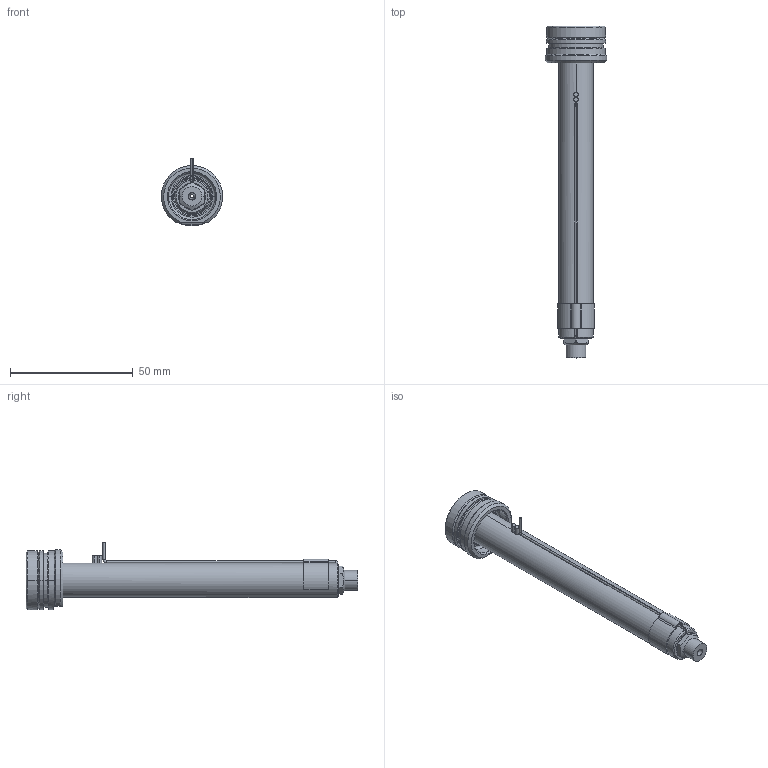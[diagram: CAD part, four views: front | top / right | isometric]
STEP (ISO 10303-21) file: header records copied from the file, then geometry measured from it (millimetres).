
FILE_DESCRIPTION((''),'2;1');
FILE_NAME('EO04_SG_SG_120_SW','2024-02-19T12:12:15',('sundharh'),(''),'CREO PARAMETRIC BY PTC INC, 2023154','CREO PARAMETRIC BY PTC INC, 2023154','');
FILE_SCHEMA(('CONFIG_CONTROL_DESIGN'));
Length unit declared in the file: millimetre
Products named in the file (1): EO04_SG_SG_120_SW
Bounding box: 24.99 x 135 x 27.5 mm (x, y, z)
Volume: 22190.5 mm3; surface area: 10729 mm2
Topology: 2 solids, 2 shells, 181 faces, 461 edges, 276 vertices
Faces by surface type: cylinder 67, plane 44, cone 34, torus 22, bspline 11, sphere 3
Entity records: 6466 total; most frequent: CARTESIAN_POINT 2096, DIRECTION 944, ORIENTED_EDGE 902, EDGE_CURVE 451, AXIS2_PLACEMENT_3D 392, VERTEX_POINT 276, CIRCLE 222, EDGE_LOOP 195
